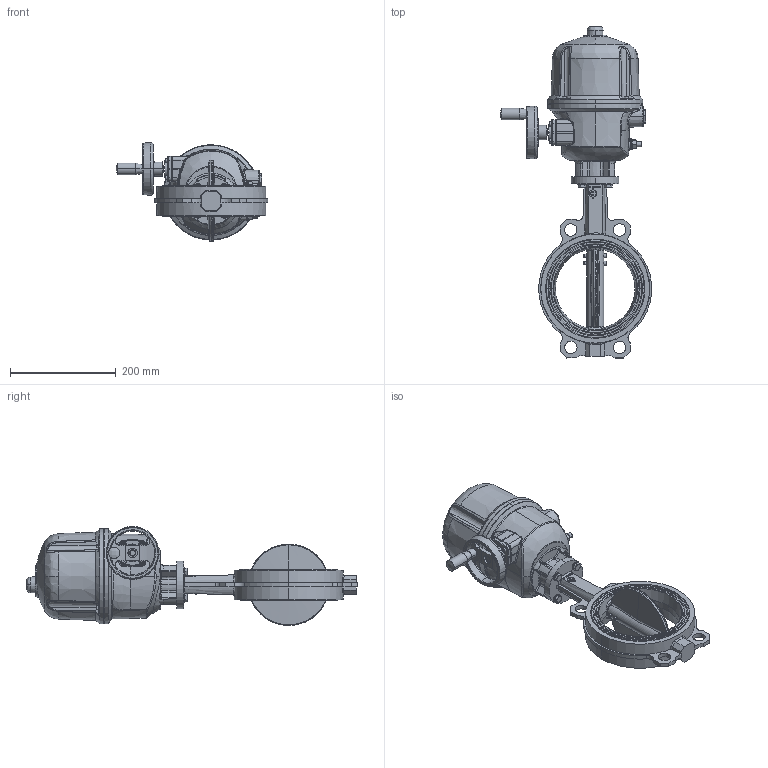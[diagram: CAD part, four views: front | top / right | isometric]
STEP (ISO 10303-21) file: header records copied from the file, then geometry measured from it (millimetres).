
FILE_DESCRIPTION (( 'STEP AP214' ), '1' );
FILE_NAME ('VPG444X-BX4XX0150.step', '2022-09-20T09:53:38', ( '' ), ( '' ), 'SwSTEP 2.0', 'SolidWorks 2020', '' );
FILE_SCHEMA (( 'AUTOMOTIVE_DESIGN' ));
Length unit declared in the file: millimetre
Products named in the file (1): VPG444X-BX4XX0150
Bounding box: 285.97 x 628.32 x 187.4 mm (x, y, z)
Surface area: 432907.3 mm2 (no closed solid volume)
Topology: 0 solids, 73 shells, 1045 faces, 5117 edges, 4017 vertices
Faces by surface type: bspline 402, plane 312, cylinder 183, cone 144, torus 4
Entity records: 99398 total; most frequent: CARTESIAN_POINT 52963, ORIENTED_EDGE 7208, DIRECTION 5379, EDGE_CURVE 5052, VERTEX_POINT 4017, VECTOR 2217, LINE 2217, B_SPLINE_CURVE_WITH_KNOTS 1811
